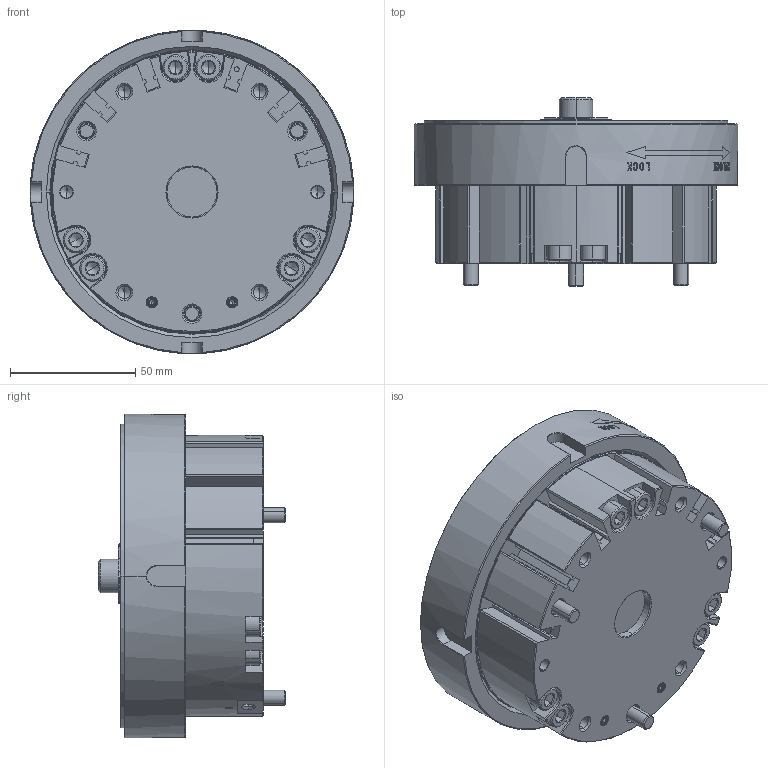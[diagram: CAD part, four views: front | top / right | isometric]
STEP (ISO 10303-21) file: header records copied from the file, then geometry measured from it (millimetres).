
FILE_DESCRIPTION (( 'STEP AP214' ), '1' );
FILE_NAME ('QGB11-OC.STEP', '2026-01-13T05:41:26', ( '' ), ( '' ), 'SwSTEP 2.0', 'SolidWorks 2022', '' );
FILE_SCHEMA (( 'AUTOMOTIVE_DESIGN' ));
Length unit declared in the file: millimetre
Products named in the file (8): MAIN-OC^HP-QGB11-Assy-61G869587-20251224; KNOCK PIN^HP-QGB11-Assy-61G869587-20251224; BOLT1^HP-QGB11-Assy-61G869587-20251224; QGB11-OC; S-TOME^HP-QGB11-Assy-61G869587-20251224; BOLT2^HP-QGB11-Assy-61G869587-20251224; BALL PLUNGER^HP-QGB11-Assy-61G869587-20251224; BOLT3^HP-QGB11-Assy-61G869587-20251224
Assembly tree (23 placements, depth 2):
  QGB11-OC
    BOLT1^HP-QGB11-Assy-61G869587-20251224  x6
    BOLT2^HP-QGB11-Assy-61G869587-20251224
    S-TOME^HP-QGB11-Assy-61G869587-20251224  x2
    KNOCK PIN^HP-QGB11-Assy-61G869587-20251224  x4
    BALL PLUNGER^HP-QGB11-Assy-61G869587-20251224  x6
    BOLT3^HP-QGB11-Assy-61G869587-20251224  x3
    MAIN-OC^HP-QGB11-Assy-61G869587-20251224
Bounding box: 129 x 74.9 x 129 mm (x, y, z)
Volume: 520479.7 mm3; surface area: 101649.1 mm2
Topology: 23 solids, 24 shells, 2156 faces, 5692 edges, 3673 vertices
Faces by surface type: bspline 956, plane 525, cone 323, cylinder 318, sphere 20, torus 14
Entity records: 92231 total; most frequent: CARTESIAN_POINT 48496, ORIENTED_EDGE 10294, EDGE_CURVE 5147, DIRECTION 4867, VERTEX_POINT 3349, B_SPLINE_CURVE_WITH_KNOTS 3126, EDGE_LOOP 2058, ADVANCED_FACE 1924
